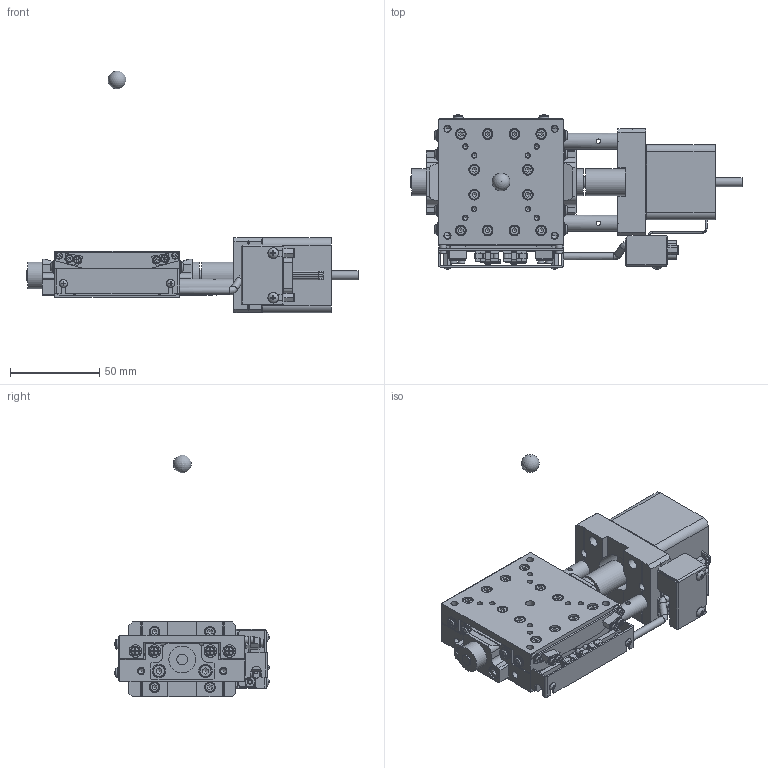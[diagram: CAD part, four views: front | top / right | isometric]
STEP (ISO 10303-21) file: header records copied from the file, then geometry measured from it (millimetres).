
FILE_DESCRIPTION( (''), '2;1');
FILE_NAME ('MVSA07A-RM02-R.stp','2025-02-07T09:38:12',(''),(''),'spGate 20.6.2 (****-****-****-****)','','');
FILE_SCHEMA (('AUTOMOTIVE_DESIGN'));
Length unit declared in the file: millimetre
Products named in the file (4): MVSA07A-RM02-R; table; base; rotation center
Assembly tree (3 placements, depth 2):
  MVSA07A-RM02-R
    table
    base
    rotation center
Bounding box: 186 x 86.47 x 135.5 mm (x, y, z)
Volume: 245288.3 mm3; surface area: 76759.1 mm2
Topology: 3 solids, 5 shells, 2935 faces, 7680 edges, 4940 vertices
Faces by surface type: plane 2013, cylinder 598, bspline 292, sphere 32
Full cylindrical faces by diameter (mm): 0.9 x15, 1 x9, 1.2 x9, 1.7 x4, 2 x27, 2.156 x2, 2.46 x8, 2.5 x12, 2.6 x2, 2.845 x6, 2.9 x1, 3 x16, 3.2 x2, 3.8 x6, 4 x15, 4.3 x4, 4.4 x4, 4.5 x9, 4.7 x2, 5 x5, 5.1 x1, 5.5 x38, 5.9 x2, 6 x30, 7 x14, 7.5 x8, 8 x4, 9 x2, 15 x3, 22 x1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
Entity records: 157023 total; most frequent: CARTESIAN_POINT 24993, ORIENTED_EDGE 15182, DIRECTION 14445, COLOUR_RGB 10529, PRESENTATION_STYLE_ASSIGNMENT 10529, STYLED_ITEM 10529, EDGE_CURVE 7591, DRAUGHTING_PRE_DEFINED_CURVE_FONT 7591
